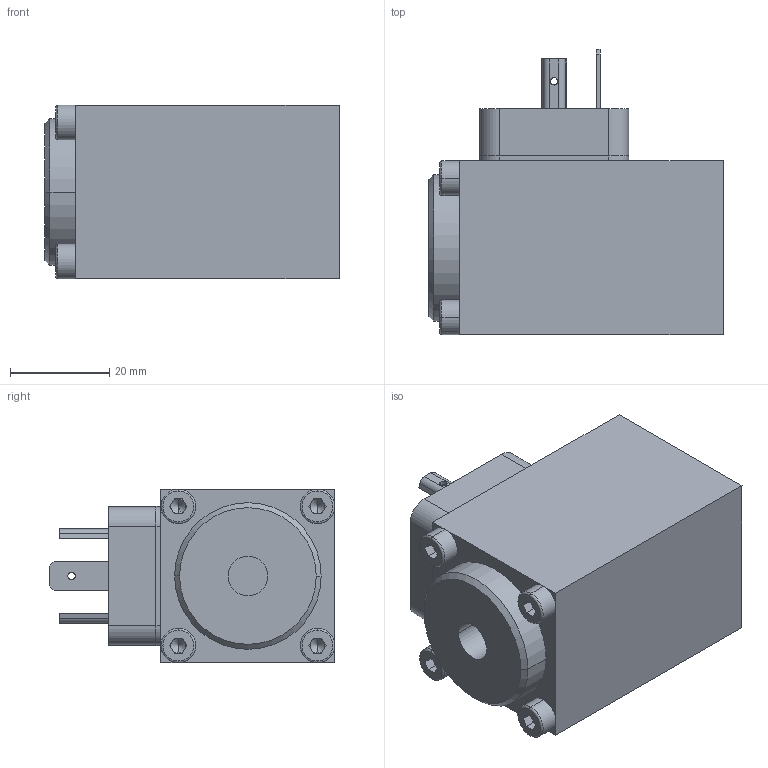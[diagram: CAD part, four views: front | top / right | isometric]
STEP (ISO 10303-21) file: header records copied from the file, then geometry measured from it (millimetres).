
FILE_DESCRIPTION (( 'STEP AP203' ), '1' );
FILE_NAME ('Prop. Magnet.step', '2013-07-29T06:19:54', ( 'Wandfluh AG' ), ( 'Wandfluh AG' ), 'SwSTEP 2.0', 'SolidWorks 2012', '' );
FILE_SCHEMA (( 'CONFIG_CONTROL_DESIGN' ));
Length unit declared in the file: millimetre
Products named in the file (1): Prop. Magnet
Bounding box: 59.2 x 57.5 x 35 mm (x, y, z)
Volume: 71885.2 mm3; surface area: 21019.1 mm2
Topology: 10 solids, 10 shells, 232 faces, 530 edges, 325 vertices
Faces by surface type: plane 116, cylinder 76, cone 24, torus 16
Entity records: 6517 total; most frequent: DIRECTION 1200, CARTESIAN_POINT 1074, ORIENTED_EDGE 1032, EDGE_CURVE 516, AXIS2_PLACEMENT_3D 451, VERTEX_POINT 325, VECTOR 298, LINE 298
